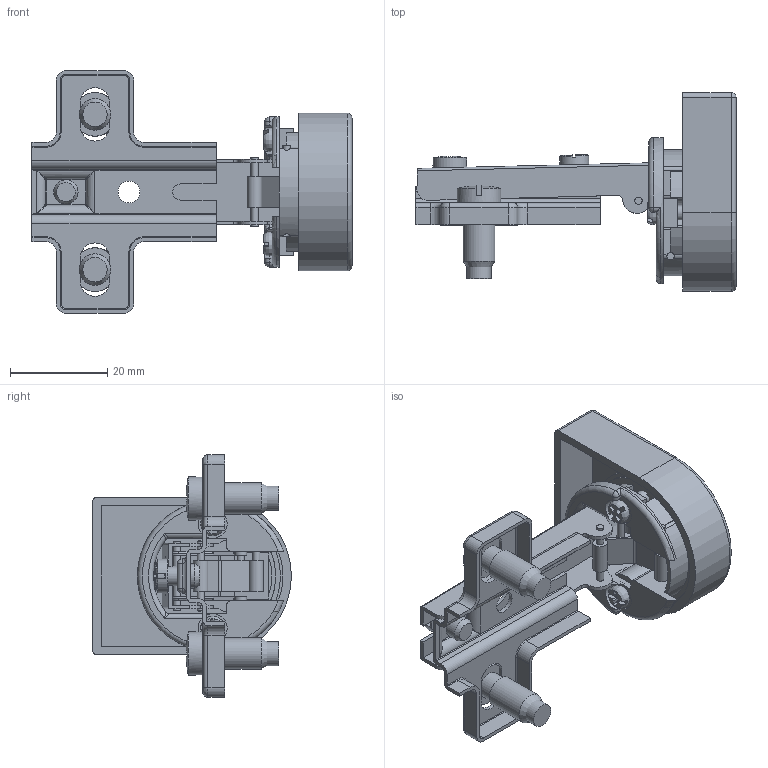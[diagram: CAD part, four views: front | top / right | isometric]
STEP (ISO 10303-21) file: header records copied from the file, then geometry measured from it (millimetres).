
FILE_DESCRIPTION(/* description */ (''),/* implementation_level */ '2;1');
FILE_NAME(/* name */ 'D:\$Workingspace\Designs\Katalog\Cadsoft\GTV Zawiasy\ZP-CIG-07(9)O(U)ZE(BE) wersja ostateczna\ZP-CIG-07(9)O(U)ZE(BE)\ZP-CIG-09UZC.ipt.stp',/* time_stamp */ '2018-01-04T08:37:19+01:00',/* author */ ('tomaszw'),/* organization */ (''),/* preprocessor_version */ 'ST-DEVELOPER v16.1',/* originating_system */ 'Autodesk Inventor 2016',/* authorisation */ '');
FILE_SCHEMA (('CONFIG_CONTROL_DESIGN'));
Length unit declared in the file: millimetre
Products named in the file (14): ZP-CIG-0-P; ZP-CIG-0_2; ZP-CIG-09; ZP-CIG-0_1; ZP-CIG-0_4; ZP-CIG-0_3; ZP-CIG-0_Pin2; ZP-CIG-0_Pin1; Euro; Wkret4x6; ZP-CIG-0-U-C; ZP-CIG-0-os; WkretM3x12; ZP-CIG-07(9)O(U)ZE(BE)
Assembly tree (17 placements, depth 2):
  ZP-CIG-07(9)O(U)ZE(BE)
    ZP-CIG-0-P
    ZP-CIG-0_2
    ZP-CIG-09
    ZP-CIG-0_1
    ZP-CIG-0_4
    ZP-CIG-0_3
    ZP-CIG-0_Pin2  x2
    ZP-CIG-0_Pin1  x2
    Euro  x2
    Wkret4x6
    ZP-CIG-0-U-C
    ZP-CIG-0-os
    WkretM3x12  x2
Bounding box: 66 x 41 x 50 mm (x, y, z)
Volume: 13118.6 mm3; surface area: 20377.8 mm2
Topology: 19 solids, 19 shells, 562 faces, 1417 edges, 892 vertices
Faces by surface type: plane 273, cylinder 204, bspline 26, torus 25, sphere 18, cone 16
Full cylindrical faces by diameter (mm): 1.5 x18, 2 x2, 2.5 x2, 3 x2, 3.5 x1, 4 x1, 4.5 x1, 5 x3, 5.5 x2, 6 x3, 6.5 x3, 7 x1, 9 x2, 28 x1, 29.5 x1
Entity records: 16418 total; most frequent: CARTESIAN_POINT 3411, DIRECTION 2735, ORIENTED_EDGE 2496, EDGE_CURVE 1246, AXIS2_PLACEMENT_3D 1021, VERTEX_POINT 809, LINE 693, VECTOR 693
